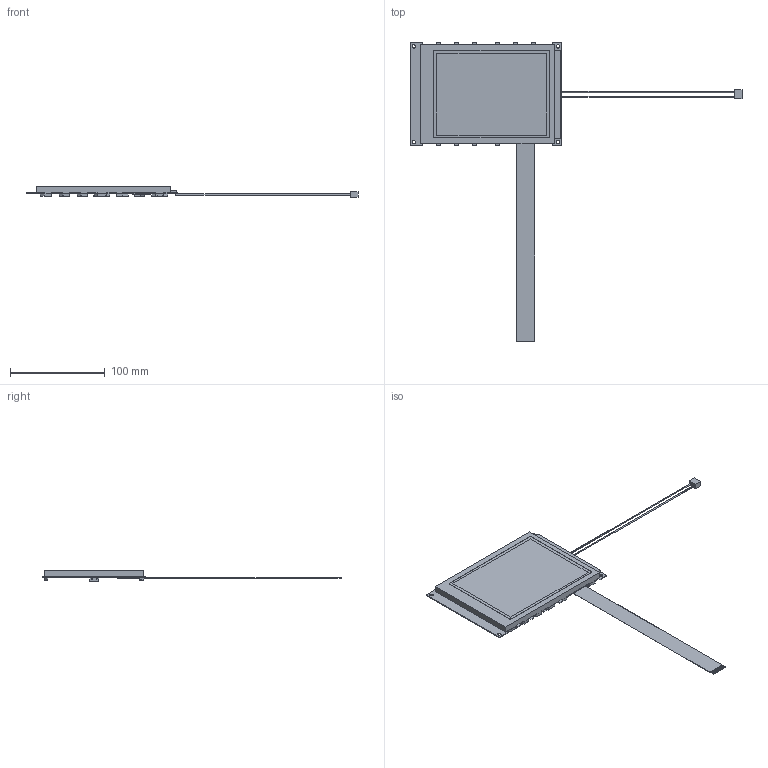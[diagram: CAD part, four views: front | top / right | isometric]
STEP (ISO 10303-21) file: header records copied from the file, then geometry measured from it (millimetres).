
FILE_DESCRIPTION (( 'STEP AP214' ), '1' );
FILE_NAME ('NHD-320240WG-ATMI-TZ#.STEP', '2018-01-08T16:47:29', ( '' ), ( '' ), 'SwSTEP 2.0', 'SolidWorks 2018', '' );
FILE_SCHEMA (( 'AUTOMOTIVE_DESIGN' ));
Length unit declared in the file: millimetre
Products named in the file (1): NHD-320240WG-ATMI-TZ#
Bounding box: 350 x 315 x 11.03 mm (x, y, z)
Volume: 123827.5 mm3; surface area: 68980.1 mm2
Topology: 3 solids, 3 shells, 319 faces, 866 edges, 556 vertices
Faces by surface type: plane 303, cylinder 16
Entity records: 9848 total; most frequent: CARTESIAN_POINT 1742, ORIENTED_EDGE 1732, DIRECTION 1538, EDGE_CURVE 866, VECTOR 834, LINE 834, VERTEX_POINT 556, AXIS2_PLACEMENT_3D 352
